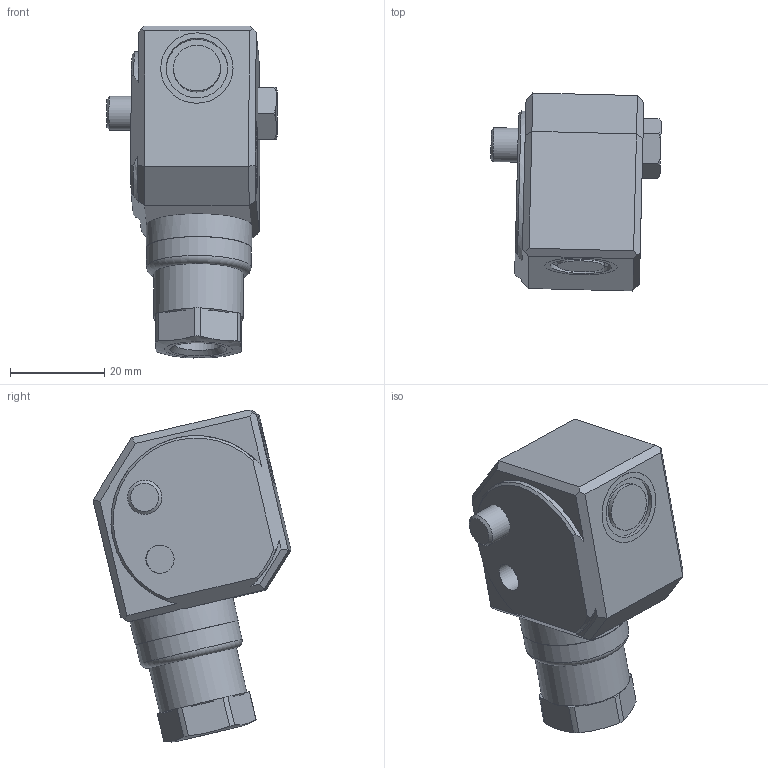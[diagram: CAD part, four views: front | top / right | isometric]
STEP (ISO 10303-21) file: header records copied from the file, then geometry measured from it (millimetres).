
FILE_DESCRIPTION(/* description */ (''),/* implementation_level */ '2;1');
FILE_NAME(/* name */ 'Z:\Engineering\Drawings\3D Library\Assemblies\Website\Triaxial Side\HS-173 PUR\HS-173XXX0102.stp',/* time_stamp */ '2023-03-25T20:43:37+00:00',/* author */ ('Ricardo.Peneda'),/* organization */ (''),/* preprocessor_version */ 'ST-DEVELOPER v18.1',/* originating_system */ 'Autodesk Inventor 2021',/* authorisation */ '');
FILE_SCHEMA (('AUTOMOTIVE_DESIGN { 1 0 10303 214 3 1 1 }'));
Length unit declared in the file: inch
Products named in the file (1): HS-173XXX0102_Shrinkwrap_1
Bounding box: 36.2 x 42 x 70.44 mm (x, y, z)
Volume: 28958.3 mm3; surface area: 16405.8 mm2
Topology: 6 solids, 6 shells, 124 faces, 315 edges, 224 vertices
Faces by surface type: plane 69, cylinder 37, cone 16, torus 1, bspline 1
Full cylindrical faces by diameter (mm): 4.5 x1, 6 x2, 7 x1, 7.2 x1, 10 x2, 10.109 x1, 12 x1, 13 x2, 13.109 x1, 14 x1, 14.95 x3, 15 x1, 15.109 x1, 15.34 x2, 15.35 x2, 16.109 x1, 18 x1, 19 x1, 19.95 x1, 20.23 x1, 22.2 x1, 22.43 x1
Entity records: 4095 total; most frequent: CARTESIAN_POINT 779, DIRECTION 699, ORIENTED_EDGE 630, EDGE_CURVE 315, AXIS2_PLACEMENT_3D 284, VERTEX_POINT 224, CIRCLE 154, EDGE_LOOP 151
